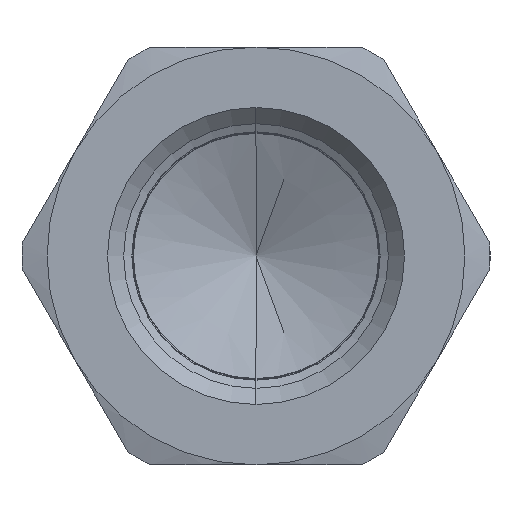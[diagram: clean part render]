
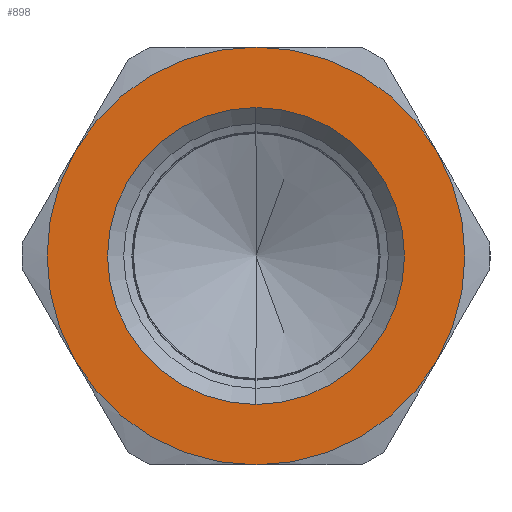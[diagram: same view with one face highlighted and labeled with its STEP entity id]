
A CAD part, left-side view. The second image highlights one B-rep face of the part: STEP entity #898.
In plain terms, the highlighted planar face has unit normal (-1, 0, 0).
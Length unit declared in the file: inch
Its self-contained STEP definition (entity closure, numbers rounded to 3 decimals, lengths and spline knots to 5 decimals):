
#784 = EDGE_CURVE ( 'NONE', #5932, #5931, #14565, .T. ) ;
#898 = ADVANCED_FACE ( 'NONE', ( #9190, #9183 ), #9191, .F. ) ;
#2067 = EDGE_CURVE ( 'NONE', #5931, #5932, #13402, .T. ) ;
#2068 = EDGE_CURVE ( 'NONE', #4336, #4356, #13372, .T. ) ;
#2069 = EDGE_CURVE ( 'NONE', #4338, #4336, #13376, .T. ) ;
#2070 = EDGE_CURVE ( 'NONE', #4340, #4338, #13363, .T. ) ;
#2071 = EDGE_CURVE ( 'NONE', #4342, #4340, #13359, .T. ) ;
#2072 = EDGE_CURVE ( 'NONE', #4354, #4342, #13355, .T. ) ;
#2073 = EDGE_CURVE ( 'NONE', #4356, #4354, #13350, .T. ) ;
#2432 = CARTESIAN_POINT ( 'NONE',  ( 0., 0., 0. ) ) ;
#2433 = DIRECTION ( 'NONE',  ( -1., 0., 0. ) ) ;
#2434 = DIRECTION ( 'NONE',  ( 0., 0., 1. ) ) ;
#2435 = CARTESIAN_POINT ( 'NONE',  ( 0., 0., 0. ) ) ;
#2436 = DIRECTION ( 'NONE',  ( -1., 0., 0. ) ) ;
#2437 = DIRECTION ( 'NONE',  ( 0., 0., -1. ) ) ;
#2438 = CARTESIAN_POINT ( 'NONE',  ( 0., 0., 0. ) ) ;
#2439 = DIRECTION ( 'NONE',  ( -1., 0., 0. ) ) ;
#2440 = DIRECTION ( 'NONE',  ( 0., 0., -1. ) ) ;
#2441 = CARTESIAN_POINT ( 'NONE',  ( 0., 0., 0. ) ) ;
#2442 = DIRECTION ( 'NONE',  ( -1., 0., 0. ) ) ;
#2443 = DIRECTION ( 'NONE',  ( 0., 0., -1. ) ) ;
#2444 = CARTESIAN_POINT ( 'NONE',  ( 0., 0., 0. ) ) ;
#2445 = DIRECTION ( 'NONE',  ( -1., 0., 0. ) ) ;
#2446 = DIRECTION ( 'NONE',  ( 0., 0., -1. ) ) ;
#2447 = CARTESIAN_POINT ( 'NONE',  ( 0., 0., 0. ) ) ;
#2448 = DIRECTION ( 'NONE',  ( -1., 0., 0. ) ) ;
#2449 = DIRECTION ( 'NONE',  ( 0., 0., -1. ) ) ;
#2450 = CARTESIAN_POINT ( 'NONE',  ( 0., 0., 0. ) ) ;
#2451 = DIRECTION ( 'NONE',  ( -1., 0., 0. ) ) ;
#2452 = DIRECTION ( 'NONE',  ( 0., 0., -1. ) ) ;
#2806 = CARTESIAN_POINT ( 'NONE',  ( 0., 0., 0.375 ) ) ;
#2807 = CARTESIAN_POINT ( 'NONE',  ( 0., -0.32476, 0.1875 ) ) ;
#2808 = CARTESIAN_POINT ( 'NONE',  ( 0., -0.32476, -0.1875 ) ) ;
#2809 = CARTESIAN_POINT ( 'NONE',  ( 0., 0., -0.375 ) ) ;
#2821 = CARTESIAN_POINT ( 'NONE',  ( 0., 0.32476, -0.1875 ) ) ;
#2823 = CARTESIAN_POINT ( 'NONE',  ( 0., 0.32476, 0.1875 ) ) ;
#3270 = CARTESIAN_POINT ( 'NONE',  ( 0., 0., 0.26649 ) ) ;
#3272 = CARTESIAN_POINT ( 'NONE',  ( 0., 0., -0.26649 ) ) ;
#4336 = VERTEX_POINT ( 'NONE', #2806 ) ;
#4338 = VERTEX_POINT ( 'NONE', #2807 ) ;
#4340 = VERTEX_POINT ( 'NONE', #2808 ) ;
#4342 = VERTEX_POINT ( 'NONE', #2809 ) ;
#4354 = VERTEX_POINT ( 'NONE', #2821 ) ;
#4356 = VERTEX_POINT ( 'NONE', #2823 ) ;
#4691 = ORIENTED_EDGE ( 'NONE', *, *, #2073, .T. ) ;
#4692 = ORIENTED_EDGE ( 'NONE', *, *, #2072, .T. ) ;
#4693 = ORIENTED_EDGE ( 'NONE', *, *, #2071, .T. ) ;
#4694 = ORIENTED_EDGE ( 'NONE', *, *, #2070, .T. ) ;
#4695 = ORIENTED_EDGE ( 'NONE', *, *, #2069, .T. ) ;
#4696 = ORIENTED_EDGE ( 'NONE', *, *, #2068, .T. ) ;
#4697 = ORIENTED_EDGE ( 'NONE', *, *, #2067, .F. ) ;
#4698 = ORIENTED_EDGE ( 'NONE', *, *, #784, .F. ) ;
#5931 = VERTEX_POINT ( 'NONE', #3270 ) ;
#5932 = VERTEX_POINT ( 'NONE', #3272 ) ;
#6420 = EDGE_LOOP ( 'NONE', ( #4697, #4698 ) ) ;
#6422 = EDGE_LOOP ( 'NONE', ( #4691, #4692, #4693, #4694, #4695, #4696 ) ) ;
#8827 = CARTESIAN_POINT ( 'NONE',  ( 0., 0., 0. ) ) ;
#8828 = DIRECTION ( 'NONE',  ( -1., 0., 0. ) ) ;
#8829 = DIRECTION ( 'NONE',  ( 0., 0., 1. ) ) ;
#9183 = FACE_BOUND ( 'NONE', #6420, .T. ) ;
#9186 = CARTESIAN_POINT ( 'NONE',  ( 0., 0.43301, 0. ) ) ;
#9190 = FACE_OUTER_BOUND ( 'NONE', #6422, .T. ) ;
#9191 = PLANE ( 'NONE',  #14412 ) ;
#9193 = DIRECTION ( 'NONE',  ( 1., 0., 0. ) ) ;
#9194 = DIRECTION ( 'NONE',  ( 0., 0., -1. ) ) ;
#13344 = AXIS2_PLACEMENT_3D ( 'NONE', #2450, #2451, #2452 ) ;
#13348 = AXIS2_PLACEMENT_3D ( 'NONE', #2447, #2448, #2449 ) ;
#13350 = CIRCLE ( 'NONE', #13344, 0.375 ) ;
#13352 = AXIS2_PLACEMENT_3D ( 'NONE', #2444, #2445, #2446 ) ;
#13355 = CIRCLE ( 'NONE', #13348, 0.375 ) ;
#13357 = AXIS2_PLACEMENT_3D ( 'NONE', #2441, #2442, #2443 ) ;
#13359 = CIRCLE ( 'NONE', #13352, 0.375 ) ;
#13361 = AXIS2_PLACEMENT_3D ( 'NONE', #2438, #2439, #2440 ) ;
#13363 = CIRCLE ( 'NONE', #13357, 0.375 ) ;
#13365 = AXIS2_PLACEMENT_3D ( 'NONE', #2435, #2436, #2437 ) ;
#13370 = AXIS2_PLACEMENT_3D ( 'NONE', #2432, #2433, #2434 ) ;
#13372 = CIRCLE ( 'NONE', #13365, 0.375 ) ;
#13376 = CIRCLE ( 'NONE', #13361, 0.375 ) ;
#13402 = CIRCLE ( 'NONE', #13370, 0.26649 ) ;
#14412 = AXIS2_PLACEMENT_3D ( 'NONE', #9186, #9193, #9194 ) ;
#14562 = AXIS2_PLACEMENT_3D ( 'NONE', #8827, #8828, #8829 ) ;
#14565 = CIRCLE ( 'NONE', #14562, 0.26649 ) ;
